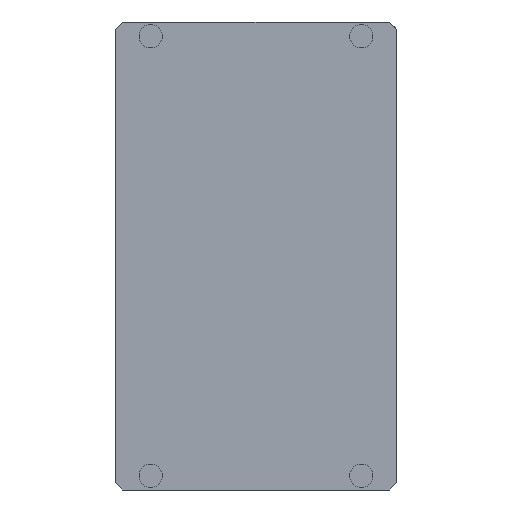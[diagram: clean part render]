
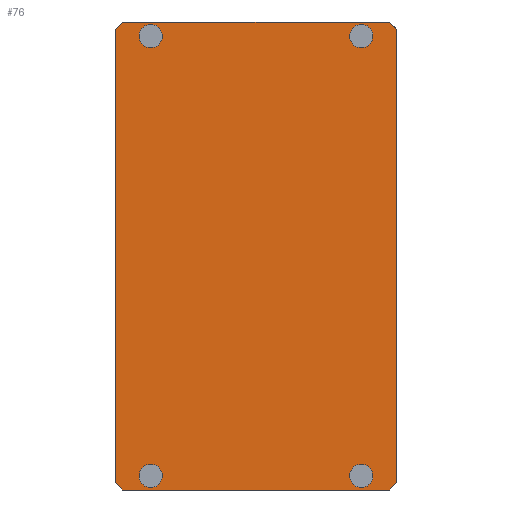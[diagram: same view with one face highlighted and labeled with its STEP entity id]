
A CAD part, front view. The second image highlights one B-rep face of the part: STEP entity #76.
In plain terms, the highlighted planar face has unit normal (0, -1, 0).
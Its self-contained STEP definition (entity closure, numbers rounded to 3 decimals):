
#26 = DIRECTION ( 'NONE',  ( 0., 0., -1. ) ) ;
#41 = DIRECTION ( 'NONE',  ( 0., -1., 0. ) ) ;
#49 = CARTESIAN_POINT ( 'NONE',  ( 45., 1., 94. ) ) ;
#63 = EDGE_CURVE ( 'NONE', #3752, #1487, #2504, .T. ) ;
#64 = DIRECTION ( 'NONE',  ( 0.707, 0., 0.707 ) ) ;
#76 = ADVANCED_FACE ( 'NONE', ( #407, #1496, #3736, #1336, #4151 ), #1789, .T. ) ;
#102 = CARTESIAN_POINT ( 'NONE',  ( 45., 1., 89. ) ) ;
#207 = EDGE_LOOP ( 'NONE', ( #1041, #3768 ) ) ;
#276 = CARTESIAN_POINT ( 'NONE',  ( -57., 1., 100. ) ) ;
#284 = VECTOR ( 'NONE', #64, 1000. ) ;
#335 = DIRECTION ( 'NONE',  ( 0., -1., 0. ) ) ;
#337 = CIRCLE ( 'NONE', #3143, 5. ) ;
#375 = AXIS2_PLACEMENT_3D ( 'NONE', #1137, #1092, #1081 ) ;
#407 = FACE_BOUND ( 'NONE', #1596, .T. ) ;
#411 = LINE ( 'NONE', #3838, #2191 ) ;
#527 = CARTESIAN_POINT ( 'NONE',  ( -45., 1., 99. ) ) ;
#629 = DIRECTION ( 'NONE',  ( 0., 0., -1. ) ) ;
#638 = ORIENTED_EDGE ( 'NONE', *, *, #4109, .T. ) ;
#649 = CARTESIAN_POINT ( 'NONE',  ( -60., 1., 97. ) ) ;
#717 = VECTOR ( 'NONE', #2299, 1000. ) ;
#758 = CARTESIAN_POINT ( 'NONE',  ( -45., 1., -99. ) ) ;
#780 = DIRECTION ( 'NONE',  ( 0., -1., 0. ) ) ;
#881 = VERTEX_POINT ( 'NONE', #2143 ) ;
#883 = ORIENTED_EDGE ( 'NONE', *, *, #4299, .T. ) ;
#940 = LINE ( 'NONE', #2317, #4448 ) ;
#992 = AXIS2_PLACEMENT_3D ( 'NONE', #3171, #3123, #3025 ) ;
#1001 = LINE ( 'NONE', #649, #3630 ) ;
#1041 = ORIENTED_EDGE ( 'NONE', *, *, #1488, .F. ) ;
#1044 = EDGE_CURVE ( 'NONE', #1704, #4219, #2992, .T. ) ;
#1081 = DIRECTION ( 'NONE',  ( 0., 0., 1. ) ) ;
#1092 = DIRECTION ( 'NONE',  ( 0., -1., 0. ) ) ;
#1094 = VERTEX_POINT ( 'NONE', #758 ) ;
#1100 = ORIENTED_EDGE ( 'NONE', *, *, #3443, .T. ) ;
#1119 = CARTESIAN_POINT ( 'NONE',  ( -45., 1., -94. ) ) ;
#1137 = CARTESIAN_POINT ( 'NONE',  ( -45., 1., 94. ) ) ;
#1276 = VERTEX_POINT ( 'NONE', #4271 ) ;
#1336 = FACE_BOUND ( 'NONE', #3717, .T. ) ;
#1398 = LINE ( 'NONE', #3686, #4001 ) ;
#1472 = CARTESIAN_POINT ( 'NONE',  ( -45., 1., -89. ) ) ;
#1487 = VERTEX_POINT ( 'NONE', #4323 ) ;
#1488 = EDGE_CURVE ( 'NONE', #1094, #4004, #3503, .T. ) ;
#1490 = ORIENTED_EDGE ( 'NONE', *, *, #63, .T. ) ;
#1496 = FACE_BOUND ( 'NONE', #207, .T. ) ;
#1594 = EDGE_LOOP ( 'NONE', ( #2072, #3874 ) ) ;
#1596 = EDGE_LOOP ( 'NONE', ( #1868, #2777 ) ) ;
#1603 = VERTEX_POINT ( 'NONE', #4403 ) ;
#1657 = CIRCLE ( 'NONE', #4411, 5. ) ;
#1704 = VERTEX_POINT ( 'NONE', #3509 ) ;
#1742 = DIRECTION ( 'NONE',  ( 0., 0., -1. ) ) ;
#1748 = DIRECTION ( 'NONE',  ( 0., -1., 0. ) ) ;
#1773 = DIRECTION ( 'NONE',  ( 0., 0., 1. ) ) ;
#1781 = DIRECTION ( 'NONE',  ( 0.707, 0., -0.707 ) ) ;
#1786 = CARTESIAN_POINT ( 'NONE',  ( -60., 1., -97. ) ) ;
#1789 = PLANE ( 'NONE',  #3411 ) ;
#1809 = VECTOR ( 'NONE', #1781, 1000. ) ;
#1821 = ORIENTED_EDGE ( 'NONE', *, *, #3657, .T. ) ;
#1822 = VERTEX_POINT ( 'NONE', #2624 ) ;
#1847 = CARTESIAN_POINT ( 'NONE',  ( 0., 1., 0. ) ) ;
#1868 = ORIENTED_EDGE ( 'NONE', *, *, #1044, .F. ) ;
#1917 = ORIENTED_EDGE ( 'NONE', *, *, #2809, .T. ) ;
#1922 = EDGE_CURVE ( 'NONE', #1822, #2926, #2845, .T. ) ;
#2072 = ORIENTED_EDGE ( 'NONE', *, *, #1922, .F. ) ;
#2082 = VERTEX_POINT ( 'NONE', #3694 ) ;
#2095 = DIRECTION ( 'NONE',  ( 0., -1., 0. ) ) ;
#2118 = CARTESIAN_POINT ( 'NONE',  ( 45., 1., -94. ) ) ;
#2143 = CARTESIAN_POINT ( 'NONE',  ( 57., 1., 100. ) ) ;
#2154 = CARTESIAN_POINT ( 'NONE',  ( 60., 1., -97. ) ) ;
#2191 = VECTOR ( 'NONE', #3778, 1000. ) ;
#2202 = DIRECTION ( 'NONE',  ( 0., 0., 1. ) ) ;
#2298 = ORIENTED_EDGE ( 'NONE', *, *, #3264, .F. ) ;
#2299 = DIRECTION ( 'NONE',  ( 1., 0., 0. ) ) ;
#2317 = CARTESIAN_POINT ( 'NONE',  ( 60., 1., -97. ) ) ;
#2318 = CARTESIAN_POINT ( 'NONE',  ( -57., 1., -100. ) ) ;
#2359 = CIRCLE ( 'NONE', #3149, 5. ) ;
#2363 = DIRECTION ( 'NONE',  ( -0.707, 0., 0.707 ) ) ;
#2504 = LINE ( 'NONE', #1786, #1809 ) ;
#2591 = LINE ( 'NONE', #2318, #717 ) ;
#2624 = CARTESIAN_POINT ( 'NONE',  ( -45., 1., 89. ) ) ;
#2674 = AXIS2_PLACEMENT_3D ( 'NONE', #2865, #2853, #2834 ) ;
#2684 = CARTESIAN_POINT ( 'NONE',  ( 60., 1., 97. ) ) ;
#2696 = CARTESIAN_POINT ( 'NONE',  ( -60., 1., -97. ) ) ;
#2777 = ORIENTED_EDGE ( 'NONE', *, *, #3980, .F. ) ;
#2796 = CARTESIAN_POINT ( 'NONE',  ( 45., 1., 99. ) ) ;
#2809 = EDGE_CURVE ( 'NONE', #3512, #2082, #1398, .T. ) ;
#2834 = DIRECTION ( 'NONE',  ( 0., 0., -1. ) ) ;
#2845 = CIRCLE ( 'NONE', #4278, 5. ) ;
#2853 = DIRECTION ( 'NONE',  ( 0., -1., 0. ) ) ;
#2858 = CARTESIAN_POINT ( 'NONE',  ( -45., 1., 94. ) ) ;
#2865 = CARTESIAN_POINT ( 'NONE',  ( 45., 1., 94. ) ) ;
#2926 = VERTEX_POINT ( 'NONE', #527 ) ;
#2931 = EDGE_LOOP ( 'NONE', ( #1490, #638, #3387, #3499, #883, #1821, #1917, #1100 ) ) ;
#2948 = CIRCLE ( 'NONE', #375, 5. ) ;
#2992 = CIRCLE ( 'NONE', #3184, 5. ) ;
#3025 = DIRECTION ( 'NONE',  ( 0., 0., -1. ) ) ;
#3050 = VERTEX_POINT ( 'NONE', #102 ) ;
#3123 = DIRECTION ( 'NONE',  ( 0., -1., 0. ) ) ;
#3127 = CIRCLE ( 'NONE', #2674, 5. ) ;
#3143 = AXIS2_PLACEMENT_3D ( 'NONE', #2118, #2095, #1773 ) ;
#3149 = AXIS2_PLACEMENT_3D ( 'NONE', #1119, #335, #4527 ) ;
#3167 = DIRECTION ( 'NONE',  ( 0., 0., 1. ) ) ;
#3171 = CARTESIAN_POINT ( 'NONE',  ( -45., 1., -94. ) ) ;
#3184 = AXIS2_PLACEMENT_3D ( 'NONE', #3343, #3242, #3464 ) ;
#3186 = LINE ( 'NONE', #3803, #284 ) ;
#3242 = DIRECTION ( 'NONE',  ( 0., -1., 0. ) ) ;
#3264 = EDGE_CURVE ( 'NONE', #3050, #4160, #3127, .T. ) ;
#3343 = CARTESIAN_POINT ( 'NONE',  ( 45., 1., -94. ) ) ;
#3353 = LINE ( 'NONE', #2684, #4135 ) ;
#3387 = ORIENTED_EDGE ( 'NONE', *, *, #3668, .T. ) ;
#3411 = AXIS2_PLACEMENT_3D ( 'NONE', #1847, #1748, #1742 ) ;
#3443 = EDGE_CURVE ( 'NONE', #2082, #3752, #1001, .T. ) ;
#3464 = DIRECTION ( 'NONE',  ( 0., 0., 1. ) ) ;
#3499 = ORIENTED_EDGE ( 'NONE', *, *, #3743, .T. ) ;
#3503 = CIRCLE ( 'NONE', #992, 5. ) ;
#3509 = CARTESIAN_POINT ( 'NONE',  ( 45., 1., -99. ) ) ;
#3512 = VERTEX_POINT ( 'NONE', #276 ) ;
#3534 = DIRECTION ( 'NONE',  ( -0.707, 0., -0.707 ) ) ;
#3573 = CARTESIAN_POINT ( 'NONE',  ( 45., 1., -89. ) ) ;
#3630 = VECTOR ( 'NONE', #629, 1000. ) ;
#3657 = EDGE_CURVE ( 'NONE', #881, #3512, #411, .T. ) ;
#3668 = EDGE_CURVE ( 'NONE', #1603, #3982, #3186, .T. ) ;
#3686 = CARTESIAN_POINT ( 'NONE',  ( -57., 1., 100. ) ) ;
#3694 = CARTESIAN_POINT ( 'NONE',  ( -60., 1., 97. ) ) ;
#3717 = EDGE_LOOP ( 'NONE', ( #2298, #4073 ) ) ;
#3736 = FACE_BOUND ( 'NONE', #1594, .T. ) ;
#3743 = EDGE_CURVE ( 'NONE', #3982, #1276, #940, .T. ) ;
#3752 = VERTEX_POINT ( 'NONE', #2696 ) ;
#3768 = ORIENTED_EDGE ( 'NONE', *, *, #3915, .F. ) ;
#3778 = DIRECTION ( 'NONE',  ( -1., 0., 0. ) ) ;
#3803 = CARTESIAN_POINT ( 'NONE',  ( 57., 1., -100. ) ) ;
#3838 = CARTESIAN_POINT ( 'NONE',  ( 57., 1., 100. ) ) ;
#3848 = EDGE_CURVE ( 'NONE', #4160, #3050, #1657, .T. ) ;
#3874 = ORIENTED_EDGE ( 'NONE', *, *, #4005, .F. ) ;
#3915 = EDGE_CURVE ( 'NONE', #4004, #1094, #2359, .T. ) ;
#3980 = EDGE_CURVE ( 'NONE', #4219, #1704, #337, .T. ) ;
#3982 = VERTEX_POINT ( 'NONE', #2154 ) ;
#4001 = VECTOR ( 'NONE', #3534, 1000. ) ;
#4004 = VERTEX_POINT ( 'NONE', #1472 ) ;
#4005 = EDGE_CURVE ( 'NONE', #2926, #1822, #2948, .T. ) ;
#4073 = ORIENTED_EDGE ( 'NONE', *, *, #3848, .F. ) ;
#4109 = EDGE_CURVE ( 'NONE', #1487, #1603, #2591, .T. ) ;
#4135 = VECTOR ( 'NONE', #2363, 1000. ) ;
#4151 = FACE_OUTER_BOUND ( 'NONE', #2931, .T. ) ;
#4160 = VERTEX_POINT ( 'NONE', #2796 ) ;
#4219 = VERTEX_POINT ( 'NONE', #3573 ) ;
#4271 = CARTESIAN_POINT ( 'NONE',  ( 60., 1., 97. ) ) ;
#4278 = AXIS2_PLACEMENT_3D ( 'NONE', #2858, #780, #3167 ) ;
#4299 = EDGE_CURVE ( 'NONE', #1276, #881, #3353, .T. ) ;
#4323 = CARTESIAN_POINT ( 'NONE',  ( -57., 1., -100. ) ) ;
#4403 = CARTESIAN_POINT ( 'NONE',  ( 57., 1., -100. ) ) ;
#4411 = AXIS2_PLACEMENT_3D ( 'NONE', #49, #41, #26 ) ;
#4448 = VECTOR ( 'NONE', #2202, 1000. ) ;
#4527 = DIRECTION ( 'NONE',  ( 0., 0., -1. ) ) ;
